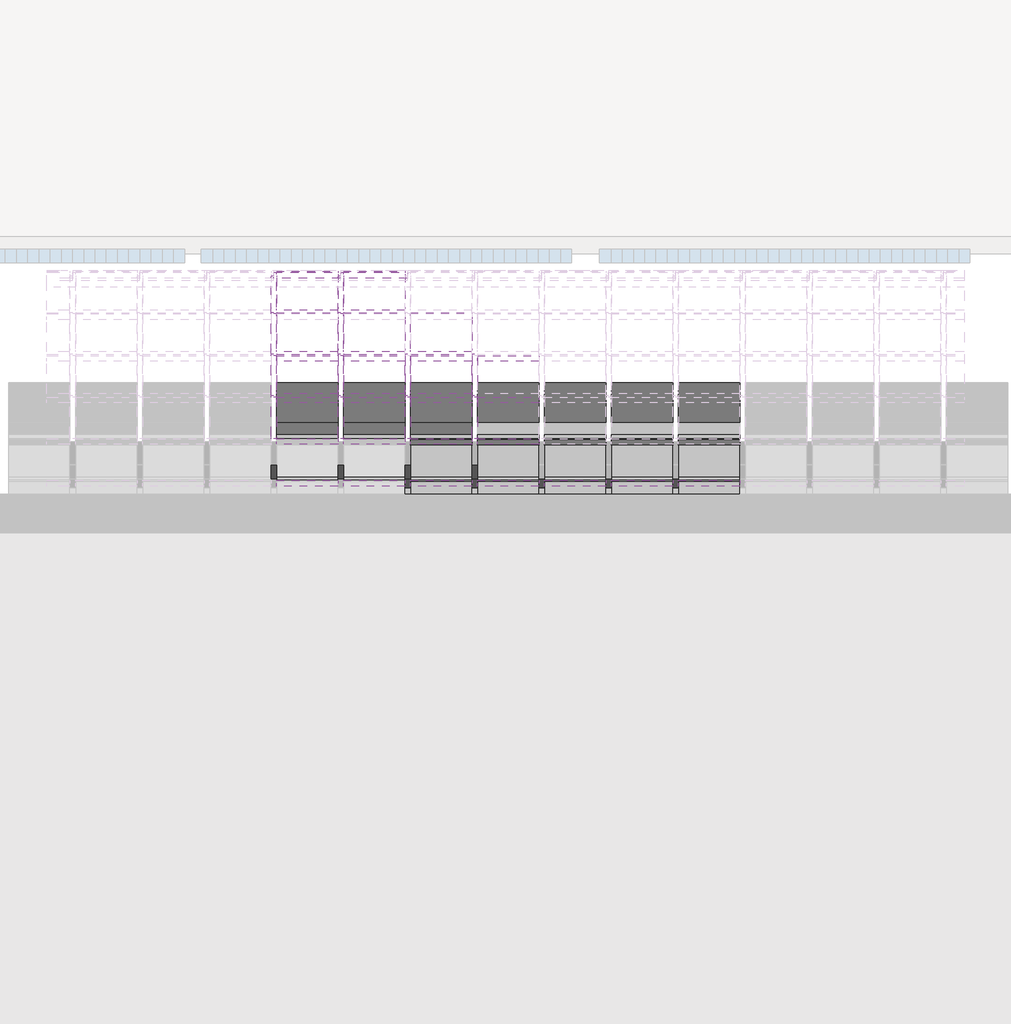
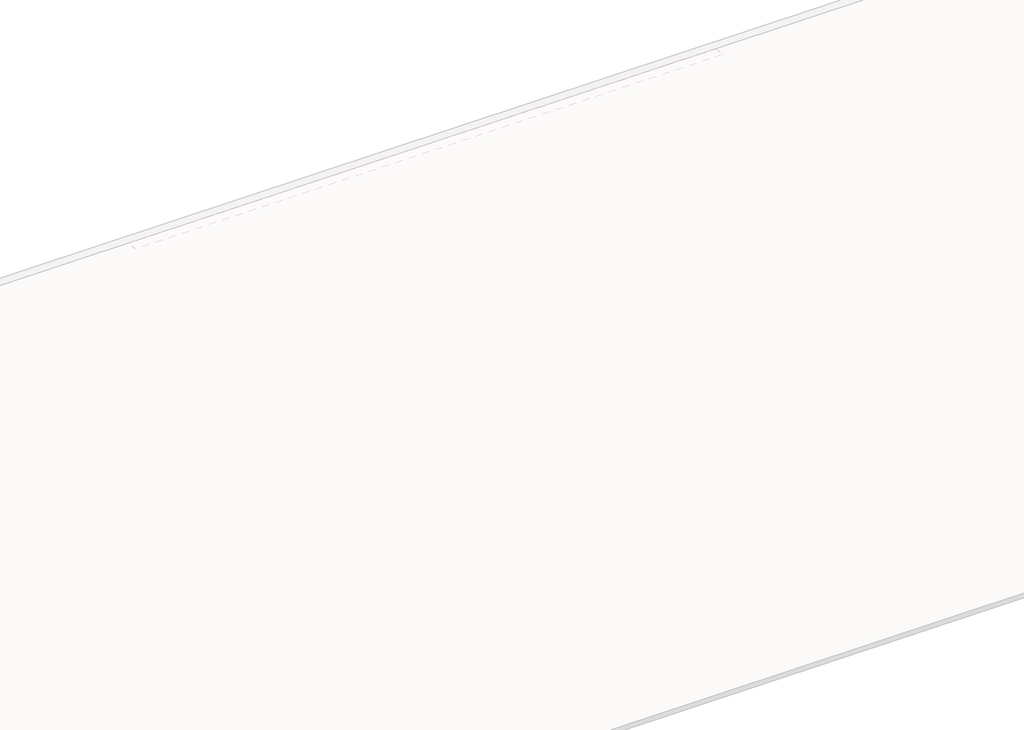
# One storey, part 40 of 57: 84 members, 40 plates.
"""IFC4 building model written with IfcOpenShell, lengths in millimetres."""

from ifc_helpers import new_model, si_unit, origin, place, context, project, spatial, transform, mapped, element, save
from components import rectangular_mullion_4c4137b9, rectangular_mullion_59984080, rectangular_mullion_2d2423ea, rectangular_mullion_caibro_df98490b, rectangular_mullion_caibro_e4384bba, rectangular_mullion_caibro_9bd7bc61, empty_system_panel_vazio_178faf58, empty_system_panel_vazio_2c78850d

model = new_model("IFC4")

# Units and contexts
model_context = context("Model", 3, world=origin())
ifc_project = project(units=[si_unit("LENGTHUNIT", "METRE", prefix="MILLI")], contexts=[model_context])

# Site, building, storey
site = spatial("IfcSite", under=ifc_project)
building = spatial("IfcBuilding", under=site)
storey = spatial("IfcBuildingStorey", under=building, Name="Nível 2", Elevation=4100.0)

# Members
placement = place(None, origin())
rectangular_mullion_shape = rectangular_mullion_4c4137b9(model_context)
element("IfcMember", 1, ObjectType="Rectangular Mullion : Ripa", at=placement, inside=storey, context=model_context, shape_type="MappedRepresentation", body=[
    mapped(rectangular_mullion_shape, transform((28022.0899349, 15566.1284427, 5819.8877114), x_axis=(0.0, 0.9578262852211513, 0.2873478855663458), y_axis=(0.0, 0.2873478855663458, -0.9578262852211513), z_axis=(-1.0, 0.0, 0.0))),
])
element("IfcMember", 2, ObjectType="Rectangular Mullion : Ripa", at=placement, inside=storey, context=model_context, shape_type="MappedRepresentation", body=[
    mapped(rectangular_mullion_shape, transform((28619.1446913, 15566.1284427, 5819.8877114), x_axis=(0.0, 0.9578262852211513, 0.2873478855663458), y_axis=(0.0, 0.2873478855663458, -0.9578262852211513), z_axis=(-1.0, 0.0, 0.0))),
])
rectangular_mullion_2_shape = rectangular_mullion_59984080(model_context)
element("IfcMember", 3, ObjectType="Rectangular Mullion : Ripa", at=placement, inside=storey, context=model_context, shape_type="MappedRepresentation", body=[
    mapped(rectangular_mullion_2_shape, transform((30435.3089606, 12234.5331147, 4820.409113), x_axis=(0.0, 0.9578262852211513, 0.2873478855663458), y_axis=(0.0, 0.2873478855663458, -0.9578262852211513), z_axis=(-1.0, 0.0, 0.0))),
])
element("IfcMember", 4, ObjectType="Rectangular Mullion : Ripa", at=placement, inside=storey, context=model_context, shape_type="MappedRepresentation", body=[
    mapped(rectangular_mullion_2_shape, transform((31032.363717, 12234.5331147, 4820.409113), x_axis=(0.0, 0.9578262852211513, 0.2873478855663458), y_axis=(0.0, 0.2873478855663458, -0.9578262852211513), z_axis=(-1.0, 0.0, 0.0))),
])
element("IfcMember", 5, ObjectType="Rectangular Mullion : Ripa", at=placement, inside=storey, context=model_context, shape_type="MappedRepresentation", body=[
    mapped(rectangular_mullion_2_shape, transform((31629.4184734, 12234.5331147, 4820.409113), x_axis=(0.0, 0.9578262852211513, 0.2873478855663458), y_axis=(0.0, 0.2873478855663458, -0.9578262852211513), z_axis=(-1.0, 0.0, 0.0))),
])
element("IfcMember", 6, ObjectType="Rectangular Mullion : Ripa", at=placement, inside=storey, context=model_context, shape_type="MappedRepresentation", body=[
    mapped(rectangular_mullion_2_shape, transform((30435.3089606, 12604.7103734, 4931.4622906), x_axis=(0.0, 0.9578262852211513, 0.2873478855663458), y_axis=(0.0, 0.2873478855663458, -0.9578262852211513), z_axis=(-1.0, 0.0, 0.0))),
])
element("IfcMember", 7, ObjectType="Rectangular Mullion : Ripa", at=placement, inside=storey, context=model_context, shape_type="MappedRepresentation", body=[
    mapped(rectangular_mullion_2_shape, transform((31032.363717, 12604.7103734, 4931.4622906), x_axis=(0.0, 0.9578262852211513, 0.2873478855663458), y_axis=(0.0, 0.2873478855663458, -0.9578262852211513), z_axis=(-1.0, 0.0, 0.0))),
])
element("IfcMember", 8, ObjectType="Rectangular Mullion : Ripa", at=placement, inside=storey, context=model_context, shape_type="MappedRepresentation", body=[
    mapped(rectangular_mullion_2_shape, transform((31629.4184734, 12604.7103734, 4931.4622906), x_axis=(0.0, 0.9578262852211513, 0.2873478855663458), y_axis=(0.0, 0.2873478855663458, -0.9578262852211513), z_axis=(-1.0, 0.0, 0.0))),
])
element("IfcMember", 9, ObjectType="Rectangular Mullion : Ripa", at=placement, inside=storey, context=model_context, shape_type="MappedRepresentation", body=[
    mapped(rectangular_mullion_2_shape, transform((30435.3089606, 12974.8876321, 5042.5154682), x_axis=(0.0, 0.9578262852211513, 0.2873478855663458), y_axis=(0.0, 0.2873478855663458, -0.9578262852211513), z_axis=(-1.0, 0.0, 0.0))),
])
element("IfcMember", 10, ObjectType="Rectangular Mullion : Ripa", at=placement, inside=storey, context=model_context, shape_type="MappedRepresentation", body=[
    mapped(rectangular_mullion_2_shape, transform((31032.363717, 12974.8876321, 5042.5154682), x_axis=(0.0, 0.9578262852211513, 0.2873478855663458), y_axis=(0.0, 0.2873478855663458, -0.9578262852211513), z_axis=(-1.0, 0.0, 0.0))),
])
element("IfcMember", 11, ObjectType="Rectangular Mullion : Ripa", at=placement, inside=storey, context=model_context, shape_type="MappedRepresentation", body=[
    mapped(rectangular_mullion_2_shape, transform((31629.4184734, 12974.8876321, 5042.5154682), x_axis=(0.0, 0.9578262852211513, 0.2873478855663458), y_axis=(0.0, 0.2873478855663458, -0.9578262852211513), z_axis=(-1.0, 0.0, 0.0))),
])
element("IfcMember", 12, ObjectType="Rectangular Mullion : Ripa", at=placement, inside=storey, context=model_context, shape_type="MappedRepresentation", body=[
    mapped(rectangular_mullion_2_shape, transform((29241.1994477, 13345.0648907, 5153.5686458), x_axis=(0.0, 0.9578262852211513, 0.2873478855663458), y_axis=(0.0, 0.2873478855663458, -0.9578262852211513), z_axis=(-1.0, 0.0, 0.0))),
])
element("IfcMember", 13, ObjectType="Rectangular Mullion : Ripa", at=placement, inside=storey, context=model_context, shape_type="MappedRepresentation", body=[
    mapped(rectangular_mullion_2_shape, transform((29838.2542041, 13345.0648907, 5153.5686458), x_axis=(0.0, 0.9578262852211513, 0.2873478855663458), y_axis=(0.0, 0.2873478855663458, -0.9578262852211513), z_axis=(-1.0, 0.0, 0.0))),
])
element("IfcMember", 14, ObjectType="Rectangular Mullion : Ripa", at=placement, inside=storey, context=model_context, shape_type="MappedRepresentation", body=[
    mapped(rectangular_mullion_2_shape, transform((30435.3089606, 13345.0648907, 5153.5686458), x_axis=(0.0, 0.9578262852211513, 0.2873478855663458), y_axis=(0.0, 0.2873478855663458, -0.9578262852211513), z_axis=(-1.0, 0.0, 0.0))),
])
element("IfcMember", 15, ObjectType="Rectangular Mullion : Ripa", at=placement, inside=storey, context=model_context, shape_type="MappedRepresentation", body=[
    mapped(rectangular_mullion_2_shape, transform((31032.363717, 13345.0648907, 5153.5686458), x_axis=(0.0, 0.9578262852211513, 0.2873478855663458), y_axis=(0.0, 0.2873478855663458, -0.9578262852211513), z_axis=(-1.0, 0.0, 0.0))),
])
element("IfcMember", 16, ObjectType="Rectangular Mullion : Ripa", at=placement, inside=storey, context=model_context, shape_type="MappedRepresentation", body=[
    mapped(rectangular_mullion_2_shape, transform((31629.4184734, 13345.0648907, 5153.5686458), x_axis=(0.0, 0.9578262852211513, 0.2873478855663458), y_axis=(0.0, 0.2873478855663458, -0.9578262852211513), z_axis=(-1.0, 0.0, 0.0))),
])
element("IfcMember", 17, ObjectType="Rectangular Mullion : Ripa", at=placement, inside=storey, context=model_context, shape_type="MappedRepresentation", body=[
    mapped(rectangular_mullion_2_shape, transform((28047.0899349, 13715.2421494, 5264.6218234), x_axis=(0.0, 0.9578262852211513, 0.2873478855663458), y_axis=(0.0, 0.2873478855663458, -0.9578262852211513), z_axis=(-1.0, 0.0, 0.0))),
])
element("IfcMember", 18, ObjectType="Rectangular Mullion : Ripa", at=placement, inside=storey, context=model_context, shape_type="MappedRepresentation", body=[
    mapped(rectangular_mullion_2_shape, transform((28644.1446913, 13715.2421494, 5264.6218234), x_axis=(0.0, 0.9578262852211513, 0.2873478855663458), y_axis=(0.0, 0.2873478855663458, -0.9578262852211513), z_axis=(-1.0, 0.0, 0.0))),
])
element("IfcMember", 19, ObjectType="Rectangular Mullion : Ripa", at=placement, inside=storey, context=model_context, shape_type="MappedRepresentation", body=[
    mapped(rectangular_mullion_2_shape, transform((29241.1994477, 13715.2421494, 5264.6218234), x_axis=(0.0, 0.9578262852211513, 0.2873478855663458), y_axis=(0.0, 0.2873478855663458, -0.9578262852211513), z_axis=(-1.0, 0.0, 0.0))),
])
element("IfcMember", 20, ObjectType="Rectangular Mullion : Ripa", at=placement, inside=storey, context=model_context, shape_type="MappedRepresentation", body=[
    mapped(rectangular_mullion_2_shape, transform((29838.2542041, 13715.2421494, 5264.6218234), x_axis=(0.0, 0.9578262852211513, 0.2873478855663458), y_axis=(0.0, 0.2873478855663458, -0.9578262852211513), z_axis=(-1.0, 0.0, 0.0))),
])
element("IfcMember", 21, ObjectType="Rectangular Mullion : Ripa", at=placement, inside=storey, context=model_context, shape_type="MappedRepresentation", body=[
    mapped(rectangular_mullion_2_shape, transform((30435.3089606, 13715.2421494, 5264.6218234), x_axis=(0.0, 0.9578262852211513, 0.2873478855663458), y_axis=(0.0, 0.2873478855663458, -0.9578262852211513), z_axis=(-1.0, 0.0, 0.0))),
])
element("IfcMember", 22, ObjectType="Rectangular Mullion : Ripa", at=placement, inside=storey, context=model_context, shape_type="MappedRepresentation", body=[
    mapped(rectangular_mullion_2_shape, transform((31032.363717, 13715.2421494, 5264.6218234), x_axis=(0.0, 0.9578262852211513, 0.2873478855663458), y_axis=(0.0, 0.2873478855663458, -0.9578262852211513), z_axis=(-1.0, 0.0, 0.0))),
])
element("IfcMember", 23, ObjectType="Rectangular Mullion : Ripa", at=placement, inside=storey, context=model_context, shape_type="MappedRepresentation", body=[
    mapped(rectangular_mullion_2_shape, transform((31629.4184734, 13715.2421494, 5264.6218234), x_axis=(0.0, 0.9578262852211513, 0.2873478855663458), y_axis=(0.0, 0.2873478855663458, -0.9578262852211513), z_axis=(-1.0, 0.0, 0.0))),
])
element("IfcMember", 24, ObjectType="Rectangular Mullion : Ripa", at=placement, inside=storey, context=model_context, shape_type="MappedRepresentation", body=[
    mapped(rectangular_mullion_2_shape, transform((28047.0899349, 14085.4194081, 5375.675001), x_axis=(0.0, 0.9578262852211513, 0.2873478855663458), y_axis=(0.0, 0.2873478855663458, -0.9578262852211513), z_axis=(-1.0, 0.0, 0.0))),
])
element("IfcMember", 25, ObjectType="Rectangular Mullion : Ripa", at=placement, inside=storey, context=model_context, shape_type="MappedRepresentation", body=[
    mapped(rectangular_mullion_2_shape, transform((28644.1446913, 14085.4194081, 5375.675001), x_axis=(0.0, 0.9578262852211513, 0.2873478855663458), y_axis=(0.0, 0.2873478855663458, -0.9578262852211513), z_axis=(-1.0, 0.0, 0.0))),
])
element("IfcMember", 26, ObjectType="Rectangular Mullion : Ripa", at=placement, inside=storey, context=model_context, shape_type="MappedRepresentation", body=[
    mapped(rectangular_mullion_2_shape, transform((29241.1994477, 14085.4194081, 5375.675001), x_axis=(0.0, 0.9578262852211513, 0.2873478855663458), y_axis=(0.0, 0.2873478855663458, -0.9578262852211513), z_axis=(-1.0, 0.0, 0.0))),
])
element("IfcMember", 27, ObjectType="Rectangular Mullion : Ripa", at=placement, inside=storey, context=model_context, shape_type="MappedRepresentation", body=[
    mapped(rectangular_mullion_2_shape, transform((29838.2542041, 14085.4194081, 5375.675001), x_axis=(0.0, 0.9578262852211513, 0.2873478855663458), y_axis=(0.0, 0.2873478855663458, -0.9578262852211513), z_axis=(-1.0, 0.0, 0.0))),
])
element("IfcMember", 28, ObjectType="Rectangular Mullion : Ripa", at=placement, inside=storey, context=model_context, shape_type="MappedRepresentation", body=[
    mapped(rectangular_mullion_2_shape, transform((28047.0899349, 14455.5966667, 5486.7281786), x_axis=(0.0, 0.9578262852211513, 0.2873478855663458), y_axis=(0.0, 0.2873478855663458, -0.9578262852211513), z_axis=(-1.0, 0.0, 0.0))),
])
element("IfcMember", 29, ObjectType="Rectangular Mullion : Ripa", at=placement, inside=storey, context=model_context, shape_type="MappedRepresentation", body=[
    mapped(rectangular_mullion_2_shape, transform((28644.1446913, 14455.5966667, 5486.7281786), x_axis=(0.0, 0.9578262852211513, 0.2873478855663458), y_axis=(0.0, 0.2873478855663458, -0.9578262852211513), z_axis=(-1.0, 0.0, 0.0))),
])
element("IfcMember", 30, ObjectType="Rectangular Mullion : Ripa", at=placement, inside=storey, context=model_context, shape_type="MappedRepresentation", body=[
    mapped(rectangular_mullion_2_shape, transform((29241.1994477, 14455.5966667, 5486.7281786), x_axis=(0.0, 0.9578262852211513, 0.2873478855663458), y_axis=(0.0, 0.2873478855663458, -0.9578262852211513), z_axis=(-1.0, 0.0, 0.0))),
])
element("IfcMember", 31, ObjectType="Rectangular Mullion : Ripa", at=placement, inside=storey, context=model_context, shape_type="MappedRepresentation", body=[
    mapped(rectangular_mullion_2_shape, transform((29838.2542041, 14455.5966667, 5486.7281786), x_axis=(0.0, 0.9578262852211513, 0.2873478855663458), y_axis=(0.0, 0.2873478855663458, -0.9578262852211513), z_axis=(-1.0, 0.0, 0.0))),
])
element("IfcMember", 32, ObjectType="Rectangular Mullion : Ripa", at=placement, inside=storey, context=model_context, shape_type="MappedRepresentation", body=[
    mapped(rectangular_mullion_2_shape, transform((28047.0899349, 14825.7739254, 5597.7813562), x_axis=(0.0, 0.9578262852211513, 0.2873478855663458), y_axis=(0.0, 0.2873478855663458, -0.9578262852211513), z_axis=(-1.0, 0.0, 0.0))),
])
element("IfcMember", 33, ObjectType="Rectangular Mullion : Ripa", at=placement, inside=storey, context=model_context, shape_type="MappedRepresentation", body=[
    mapped(rectangular_mullion_2_shape, transform((28644.1446913, 14825.7739254, 5597.7813562), x_axis=(0.0, 0.9578262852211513, 0.2873478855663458), y_axis=(0.0, 0.2873478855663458, -0.9578262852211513), z_axis=(-1.0, 0.0, 0.0))),
])
element("IfcMember", 34, ObjectType="Rectangular Mullion : Ripa", at=placement, inside=storey, context=model_context, shape_type="MappedRepresentation", body=[
    mapped(rectangular_mullion_2_shape, transform((29241.1994477, 14825.7739254, 5597.7813562), x_axis=(0.0, 0.9578262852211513, 0.2873478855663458), y_axis=(0.0, 0.2873478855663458, -0.9578262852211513), z_axis=(-1.0, 0.0, 0.0))),
])
element("IfcMember", 35, ObjectType="Rectangular Mullion : Ripa", at=placement, inside=storey, context=model_context, shape_type="MappedRepresentation", body=[
    mapped(rectangular_mullion_2_shape, transform((29838.2542041, 14825.7739254, 5597.7813562), x_axis=(0.0, 0.9578262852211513, 0.2873478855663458), y_axis=(0.0, 0.2873478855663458, -0.9578262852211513), z_axis=(-1.0, 0.0, 0.0))),
])
rectangular_mullion_3_shape = rectangular_mullion_2d2423ea(model_context)
element("IfcMember", 36, ObjectType="Rectangular Mullion : Terça", at=placement, inside=storey, context=model_context, shape_type="MappedRepresentation", body=[
    mapped(rectangular_mullion_3_shape, transform((28047.0899349, 13411.2689826, 5110.7880343), x_axis=(0.0, 0.9578262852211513, 0.2873478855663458), y_axis=(0.0, 0.2873478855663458, -0.9578262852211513), z_axis=(-1.0, 0.0, 0.0))),
])
element("IfcMember", 37, ObjectType="Rectangular Mullion : Terça", at=placement, inside=storey, context=model_context, shape_type="MappedRepresentation", body=[
    mapped(rectangular_mullion_3_shape, transform((28644.1446913, 13411.2689826, 5110.7880343), x_axis=(0.0, 0.9578262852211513, 0.2873478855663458), y_axis=(0.0, 0.2873478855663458, -0.9578262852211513), z_axis=(-1.0, 0.0, 0.0))),
])
element("IfcMember", 38, ObjectType="Rectangular Mullion : Terça", at=placement, inside=storey, context=model_context, shape_type="MappedRepresentation", body=[
    mapped(rectangular_mullion_3_shape, transform((29241.1994477, 13411.2689826, 5110.7880343), x_axis=(0.0, 0.9578262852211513, 0.2873478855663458), y_axis=(0.0, 0.2873478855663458, -0.9578262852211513), z_axis=(-1.0, 0.0, 0.0))),
])
element("IfcMember", 39, ObjectType="Rectangular Mullion : Terça", at=placement, inside=storey, context=model_context, shape_type="MappedRepresentation", body=[
    mapped(rectangular_mullion_3_shape, transform((29838.2542041, 13411.2689826, 5110.7880343), x_axis=(0.0, 0.9578262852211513, 0.2873478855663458), y_axis=(0.0, 0.2873478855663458, -0.9578262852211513), z_axis=(-1.0, 0.0, 0.0))),
])
element("IfcMember", 40, ObjectType="Rectangular Mullion : Terça", at=placement, inside=storey, context=model_context, shape_type="MappedRepresentation", body=[
    mapped(rectangular_mullion_3_shape, transform((30435.3089606, 13411.2689826, 5110.7880343), x_axis=(0.0, 0.9578262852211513, 0.2873478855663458), y_axis=(0.0, 0.2873478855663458, -0.9578262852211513), z_axis=(-1.0, 0.0, 0.0))),
])
element("IfcMember", 41, ObjectType="Rectangular Mullion : Terça", at=placement, inside=storey, context=model_context, shape_type="MappedRepresentation", body=[
    mapped(rectangular_mullion_3_shape, transform((31032.363717, 13411.2689826, 5110.7880343), x_axis=(0.0, 0.9578262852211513, 0.2873478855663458), y_axis=(0.0, 0.2873478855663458, -0.9578262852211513), z_axis=(-1.0, 0.0, 0.0))),
])
element("IfcMember", 42, ObjectType="Rectangular Mullion : Terça", at=placement, inside=storey, context=model_context, shape_type="MappedRepresentation", body=[
    mapped(rectangular_mullion_3_shape, transform((31629.4184734, 13411.2689826, 5110.7880343), x_axis=(0.0, 0.9578262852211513, 0.2873478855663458), y_axis=(0.0, 0.2873478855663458, -0.9578262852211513), z_axis=(-1.0, 0.0, 0.0))),
])
rectangular_mullion_caibro_shape = rectangular_mullion_caibro_df98490b(model_context)
element("IfcMember", 43, ObjectType="Rectangular Mullion : Caibro", at=placement, inside=storey, context=model_context, shape_type="MappedRepresentation", body=[
    mapped(rectangular_mullion_caibro_shape, transform((28022.0899349, 15518.2371285, 5805.5203171), x_axis=(1.0, 0.0, 0.0), y_axis=(0.0, 0.28734788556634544, -0.9578262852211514), z_axis=(0.0, 0.9578262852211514, 0.28734788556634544))),
])
element("IfcMember", 44, ObjectType="Rectangular Mullion : Caibro", at=placement, inside=storey, context=model_context, shape_type="MappedRepresentation", body=[
    mapped(rectangular_mullion_caibro_shape, transform((28619.1446913, 15518.2371285, 5805.5203171), x_axis=(1.0, 0.0, 0.0), y_axis=(0.0, 0.28734788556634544, -0.9578262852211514), z_axis=(0.0, 0.9578262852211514, 0.28734788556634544))),
])
rectangular_mullion_caibro_2_shape = rectangular_mullion_caibro_e4384bba(model_context)
element("IfcMember", 45, ObjectType="Rectangular Mullion : Caibro", at=placement, inside=storey, context=model_context, shape_type="MappedRepresentation", body=[
    mapped(rectangular_mullion_caibro_2_shape, transform((28022.0899349, 14085.4194081, 5375.675001), x_axis=(1.0, 0.0, 0.0), y_axis=(0.0, 0.28734788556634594, -0.9578262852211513), z_axis=(0.0, 0.9578262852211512, 0.2873478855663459))),
])
element("IfcMember", 46, ObjectType="Rectangular Mullion : Caibro", at=placement, inside=storey, context=model_context, shape_type="MappedRepresentation", body=[
    mapped(rectangular_mullion_caibro_2_shape, transform((28022.0899349, 14455.5966667, 5486.7281786), x_axis=(1.0, 0.0, 0.0), y_axis=(0.0, 0.2873478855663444, -0.9578262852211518), z_axis=(0.0, 0.9578262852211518, 0.2873478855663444))),
])
element("IfcMember", 47, ObjectType="Rectangular Mullion : Caibro", at=placement, inside=storey, context=model_context, shape_type="MappedRepresentation", body=[
    mapped(rectangular_mullion_caibro_2_shape, transform((28022.0899349, 14825.7739254, 5597.7813562), x_axis=(1.0, 0.0, 0.0), y_axis=(0.0, 0.287347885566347, -0.9578262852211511), z_axis=(0.0, 0.9578262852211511, 0.287347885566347))),
])
element("IfcMember", 48, ObjectType="Rectangular Mullion : Caibro", at=placement, inside=storey, context=model_context, shape_type="MappedRepresentation", body=[
    mapped(rectangular_mullion_caibro_2_shape, transform((28022.0899349, 15195.9511841, 5708.8345338), x_axis=(1.0, 0.0, 0.0), y_axis=(0.0, 0.28734788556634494, -0.9578262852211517), z_axis=(0.0, 0.9578262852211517, 0.28734788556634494))),
])
element("IfcMember", 49, ObjectType="Rectangular Mullion : Caibro", at=placement, inside=storey, context=model_context, shape_type="MappedRepresentation", body=[
    mapped(rectangular_mullion_caibro_2_shape, transform((28619.1446913, 14085.4194081, 5375.675001), x_axis=(1.0, 0.0, 0.0), y_axis=(0.0, 0.28734788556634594, -0.9578262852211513), z_axis=(0.0, 0.9578262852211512, 0.2873478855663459))),
])
element("IfcMember", 50, ObjectType="Rectangular Mullion : Caibro", at=placement, inside=storey, context=model_context, shape_type="MappedRepresentation", body=[
    mapped(rectangular_mullion_caibro_2_shape, transform((28619.1446913, 14455.5966667, 5486.7281786), x_axis=(1.0, 0.0, 0.0), y_axis=(0.0, 0.2873478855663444, -0.9578262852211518), z_axis=(0.0, 0.9578262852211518, 0.2873478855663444))),
])
element("IfcMember", 51, ObjectType="Rectangular Mullion : Caibro", at=placement, inside=storey, context=model_context, shape_type="MappedRepresentation", body=[
    mapped(rectangular_mullion_caibro_2_shape, transform((28619.1446913, 14825.7739254, 5597.7813562), x_axis=(1.0, 0.0, 0.0), y_axis=(0.0, 0.287347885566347, -0.9578262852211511), z_axis=(0.0, 0.9578262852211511, 0.287347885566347))),
])
element("IfcMember", 52, ObjectType="Rectangular Mullion : Caibro", at=placement, inside=storey, context=model_context, shape_type="MappedRepresentation", body=[
    mapped(rectangular_mullion_caibro_2_shape, transform((28619.1446913, 15195.9511841, 5708.8345338), x_axis=(1.0, 0.0, 0.0), y_axis=(0.0, 0.28734788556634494, -0.9578262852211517), z_axis=(0.0, 0.9578262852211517, 0.28734788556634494))),
])
element("IfcMember", 53, ObjectType="Rectangular Mullion : Caibro", at=placement, inside=storey, context=model_context, shape_type="MappedRepresentation", body=[
    mapped(rectangular_mullion_caibro_2_shape, transform((29216.1994477, 13345.0648907, 5153.5686458), x_axis=(1.0, 0.0, 0.0), y_axis=(0.0, 0.28734788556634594, -0.9578262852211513), z_axis=(0.0, 0.9578262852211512, 0.2873478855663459))),
])
element("IfcMember", 54, ObjectType="Rectangular Mullion : Caibro", at=placement, inside=storey, context=model_context, shape_type="MappedRepresentation", body=[
    mapped(rectangular_mullion_caibro_2_shape, transform((29216.1994477, 13715.2421494, 5264.6218234), x_axis=(1.0, 0.0, 0.0), y_axis=(0.0, 0.28734788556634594, -0.9578262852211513), z_axis=(0.0, 0.9578262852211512, 0.2873478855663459))),
])
element("IfcMember", 55, ObjectType="Rectangular Mullion : Caibro", at=placement, inside=storey, context=model_context, shape_type="MappedRepresentation", body=[
    mapped(rectangular_mullion_caibro_2_shape, transform((29216.1994477, 14085.4194081, 5375.675001), x_axis=(1.0, 0.0, 0.0), y_axis=(0.0, 0.28734788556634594, -0.9578262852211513), z_axis=(0.0, 0.9578262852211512, 0.2873478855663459))),
])
element("IfcMember", 56, ObjectType="Rectangular Mullion : Caibro", at=placement, inside=storey, context=model_context, shape_type="MappedRepresentation", body=[
    mapped(rectangular_mullion_caibro_2_shape, transform((29216.1994477, 14455.5966667, 5486.7281786), x_axis=(1.0, 0.0, 0.0), y_axis=(0.0, 0.2873478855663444, -0.9578262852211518), z_axis=(0.0, 0.9578262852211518, 0.2873478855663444))),
])
element("IfcMember", 57, ObjectType="Rectangular Mullion : Caibro", at=placement, inside=storey, context=model_context, shape_type="MappedRepresentation", body=[
    mapped(rectangular_mullion_caibro_2_shape, transform((29216.1994477, 14825.7739254, 5597.7813562), x_axis=(1.0, 0.0, 0.0), y_axis=(0.0, 0.287347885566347, -0.9578262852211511), z_axis=(0.0, 0.9578262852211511, 0.287347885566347))),
])
element("IfcMember", 58, ObjectType="Rectangular Mullion : Caibro", at=placement, inside=storey, context=model_context, shape_type="MappedRepresentation", body=[
    mapped(rectangular_mullion_caibro_2_shape, transform((29813.2542041, 13345.0648907, 5153.5686458), x_axis=(1.0, 0.0, 0.0), y_axis=(0.0, 0.28734788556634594, -0.9578262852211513), z_axis=(0.0, 0.9578262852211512, 0.2873478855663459))),
])
element("IfcMember", 59, ObjectType="Rectangular Mullion : Caibro", at=placement, inside=storey, context=model_context, shape_type="MappedRepresentation", body=[
    mapped(rectangular_mullion_caibro_2_shape, transform((29813.2542041, 13715.2421494, 5264.6218234), x_axis=(1.0, 0.0, 0.0), y_axis=(0.0, 0.28734788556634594, -0.9578262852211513), z_axis=(0.0, 0.9578262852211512, 0.2873478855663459))),
])
element("IfcMember", 60, ObjectType="Rectangular Mullion : Caibro", at=placement, inside=storey, context=model_context, shape_type="MappedRepresentation", body=[
    mapped(rectangular_mullion_caibro_2_shape, transform((29813.2542041, 14085.4194081, 5375.675001), x_axis=(1.0, 0.0, 0.0), y_axis=(0.0, 0.28734788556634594, -0.9578262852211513), z_axis=(0.0, 0.9578262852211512, 0.2873478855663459))),
])
element("IfcMember", 61, ObjectType="Rectangular Mullion : Caibro", at=placement, inside=storey, context=model_context, shape_type="MappedRepresentation", body=[
    mapped(rectangular_mullion_caibro_2_shape, transform((29813.2542041, 14455.5966667, 5486.7281786), x_axis=(1.0, 0.0, 0.0), y_axis=(0.0, 0.28734788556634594, -0.9578262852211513), z_axis=(0.0, 0.9578262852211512, 0.2873478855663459))),
])
element("IfcMember", 62, ObjectType="Rectangular Mullion : Caibro", at=placement, inside=storey, context=model_context, shape_type="MappedRepresentation", body=[
    mapped(rectangular_mullion_caibro_2_shape, transform((29813.2542041, 14825.7739254, 5597.7813562), x_axis=(1.0, 0.0, 0.0), y_axis=(0.0, 0.28734788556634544, -0.9578262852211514), z_axis=(0.0, 0.9578262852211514, 0.28734788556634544))),
])
element("IfcMember", 63, ObjectType="Rectangular Mullion : Caibro", at=placement, inside=storey, context=model_context, shape_type="MappedRepresentation", body=[
    mapped(rectangular_mullion_caibro_2_shape, transform((30410.3089606, 12234.5331147, 4820.409113), x_axis=(1.0, 0.0, 0.0), y_axis=(0.0, 0.2873478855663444, -0.9578262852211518), z_axis=(0.0, 0.9578262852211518, 0.2873478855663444))),
])
element("IfcMember", 64, ObjectType="Rectangular Mullion : Caibro", at=placement, inside=storey, context=model_context, shape_type="MappedRepresentation", body=[
    mapped(rectangular_mullion_caibro_2_shape, transform((30410.3089606, 12604.7103734, 4931.4622906), x_axis=(1.0, 0.0, 0.0), y_axis=(0.0, 0.28734788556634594, -0.9578262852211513), z_axis=(0.0, 0.9578262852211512, 0.2873478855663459))),
])
element("IfcMember", 65, ObjectType="Rectangular Mullion : Caibro", at=placement, inside=storey, context=model_context, shape_type="MappedRepresentation", body=[
    mapped(rectangular_mullion_caibro_2_shape, transform((30410.3089606, 12974.8876321, 5042.5154682), x_axis=(1.0, 0.0, 0.0), y_axis=(0.0, 0.28734788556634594, -0.9578262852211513), z_axis=(0.0, 0.9578262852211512, 0.2873478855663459))),
])
element("IfcMember", 66, ObjectType="Rectangular Mullion : Caibro", at=placement, inside=storey, context=model_context, shape_type="MappedRepresentation", body=[
    mapped(rectangular_mullion_caibro_2_shape, transform((30410.3089606, 13345.0648907, 5153.5686458), x_axis=(1.0, 0.0, 0.0), y_axis=(0.0, 0.28734788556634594, -0.9578262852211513), z_axis=(0.0, 0.9578262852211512, 0.2873478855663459))),
])
element("IfcMember", 67, ObjectType="Rectangular Mullion : Caibro", at=placement, inside=storey, context=model_context, shape_type="MappedRepresentation", body=[
    mapped(rectangular_mullion_caibro_2_shape, transform((30410.3089606, 13715.2421494, 5264.6218234), x_axis=(1.0, 0.0, 0.0), y_axis=(0.0, 0.28734788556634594, -0.9578262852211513), z_axis=(0.0, 0.9578262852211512, 0.2873478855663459))),
])
element("IfcMember", 68, ObjectType="Rectangular Mullion : Caibro", at=placement, inside=storey, context=model_context, shape_type="MappedRepresentation", body=[
    mapped(rectangular_mullion_caibro_2_shape, transform((31007.363717, 12234.5331147, 4820.409113), x_axis=(1.0, 0.0, 0.0), y_axis=(0.0, 0.2873478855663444, -0.9578262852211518), z_axis=(0.0, 0.9578262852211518, 0.2873478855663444))),
])
element("IfcMember", 69, ObjectType="Rectangular Mullion : Caibro", at=placement, inside=storey, context=model_context, shape_type="MappedRepresentation", body=[
    mapped(rectangular_mullion_caibro_2_shape, transform((31007.363717, 12604.7103734, 4931.4622906), x_axis=(1.0, 0.0, 0.0), y_axis=(0.0, 0.28734788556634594, -0.9578262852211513), z_axis=(0.0, 0.9578262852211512, 0.2873478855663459))),
])
element("IfcMember", 70, ObjectType="Rectangular Mullion : Caibro", at=placement, inside=storey, context=model_context, shape_type="MappedRepresentation", body=[
    mapped(rectangular_mullion_caibro_2_shape, transform((31007.363717, 12974.8876321, 5042.5154682), x_axis=(1.0, 0.0, 0.0), y_axis=(0.0, 0.28734788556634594, -0.9578262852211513), z_axis=(0.0, 0.9578262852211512, 0.2873478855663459))),
])
element("IfcMember", 71, ObjectType="Rectangular Mullion : Caibro", at=placement, inside=storey, context=model_context, shape_type="MappedRepresentation", body=[
    mapped(rectangular_mullion_caibro_2_shape, transform((31007.363717, 13345.0648907, 5153.5686458), x_axis=(1.0, 0.0, 0.0), y_axis=(0.0, 0.28734788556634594, -0.9578262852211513), z_axis=(0.0, 0.9578262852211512, 0.2873478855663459))),
])
element("IfcMember", 72, ObjectType="Rectangular Mullion : Caibro", at=placement, inside=storey, context=model_context, shape_type="MappedRepresentation", body=[
    mapped(rectangular_mullion_caibro_2_shape, transform((31007.363717, 13715.2421494, 5264.6218234), x_axis=(1.0, 0.0, 0.0), y_axis=(0.0, 0.28734788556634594, -0.9578262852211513), z_axis=(0.0, 0.9578262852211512, 0.2873478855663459))),
])
element("IfcMember", 73, ObjectType="Rectangular Mullion : Caibro", at=placement, inside=storey, context=model_context, shape_type="MappedRepresentation", body=[
    mapped(rectangular_mullion_caibro_2_shape, transform((31604.4184734, 12234.5331147, 4820.409113), x_axis=(1.0, 0.0, 0.0), y_axis=(0.0, 0.2873478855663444, -0.9578262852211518), z_axis=(0.0, 0.9578262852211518, 0.2873478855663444))),
])
element("IfcMember", 74, ObjectType="Rectangular Mullion : Caibro", at=placement, inside=storey, context=model_context, shape_type="MappedRepresentation", body=[
    mapped(rectangular_mullion_caibro_2_shape, transform((31604.4184734, 12604.7103734, 4931.4622906), x_axis=(1.0, 0.0, 0.0), y_axis=(0.0, 0.28734788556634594, -0.9578262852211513), z_axis=(0.0, 0.9578262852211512, 0.2873478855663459))),
])
element("IfcMember", 75, ObjectType="Rectangular Mullion : Caibro", at=placement, inside=storey, context=model_context, shape_type="MappedRepresentation", body=[
    mapped(rectangular_mullion_caibro_2_shape, transform((31604.4184734, 12974.8876321, 5042.5154682), x_axis=(1.0, 0.0, 0.0), y_axis=(0.0, 0.28734788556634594, -0.9578262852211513), z_axis=(0.0, 0.9578262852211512, 0.2873478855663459))),
])
element("IfcMember", 76, ObjectType="Rectangular Mullion : Caibro", at=placement, inside=storey, context=model_context, shape_type="MappedRepresentation", body=[
    mapped(rectangular_mullion_caibro_2_shape, transform((31604.4184734, 13345.0648907, 5153.5686458), x_axis=(1.0, 0.0, 0.0), y_axis=(0.0, 0.28734788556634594, -0.9578262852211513), z_axis=(0.0, 0.9578262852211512, 0.2873478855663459))),
])
element("IfcMember", 77, ObjectType="Rectangular Mullion : Caibro", at=placement, inside=storey, context=model_context, shape_type="MappedRepresentation", body=[
    mapped(rectangular_mullion_caibro_2_shape, transform((31604.4184734, 13715.2421494, 5264.6218234), x_axis=(1.0, 0.0, 0.0), y_axis=(0.0, 0.28734788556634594, -0.9578262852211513), z_axis=(0.0, 0.9578262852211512, 0.2873478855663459))),
])
rectangular_mullion_caibro_3_shape = rectangular_mullion_caibro_9bd7bc61(model_context)
element("IfcMember", 78, ObjectType="Rectangular Mullion : Caibro", at=placement, inside=storey, context=model_context, shape_type="MappedRepresentation", body=[
    mapped(rectangular_mullion_caibro_3_shape, transform((28022.0899349, 13411.2689826, 5110.7880343), x_axis=(1.0, 0.0, 0.0), y_axis=(0.0, 0.2873478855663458, -0.9578262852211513), z_axis=(0.0, 0.9578262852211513, 0.2873478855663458))),
])
element("IfcMember", 79, ObjectType="Rectangular Mullion : Caibro", at=placement, inside=storey, context=model_context, shape_type="MappedRepresentation", body=[
    mapped(rectangular_mullion_caibro_3_shape, transform((28619.1446913, 13411.2689826, 5110.7880343), x_axis=(1.0, 0.0, 0.0), y_axis=(0.0, 0.2873478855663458, -0.9578262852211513), z_axis=(0.0, 0.9578262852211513, 0.2873478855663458))),
])
element("IfcMember", 80, ObjectType="Rectangular Mullion : Caibro", at=placement, inside=storey, context=model_context, shape_type="MappedRepresentation", body=[
    mapped(rectangular_mullion_caibro_3_shape, transform((29216.1994477, 13411.2689826, 5110.7880343), x_axis=(1.0, 0.0, 0.0), y_axis=(0.0, 0.2873478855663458, -0.9578262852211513), z_axis=(0.0, 0.9578262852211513, 0.2873478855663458))),
])
element("IfcMember", 81, ObjectType="Rectangular Mullion : Caibro", at=placement, inside=storey, context=model_context, shape_type="MappedRepresentation", body=[
    mapped(rectangular_mullion_caibro_3_shape, transform((29813.2542041, 13411.2689826, 5110.7880343), x_axis=(1.0, 0.0, 0.0), y_axis=(0.0, 0.2873478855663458, -0.9578262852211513), z_axis=(0.0, 0.9578262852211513, 0.2873478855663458))),
])
element("IfcMember", 82, ObjectType="Rectangular Mullion : Caibro", at=placement, inside=storey, context=model_context, shape_type="MappedRepresentation", body=[
    mapped(rectangular_mullion_caibro_3_shape, transform((30410.3089606, 13411.2689826, 5110.7880343), x_axis=(1.0, 0.0, 0.0), y_axis=(0.0, 0.2873478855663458, -0.9578262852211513), z_axis=(0.0, 0.9578262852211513, 0.2873478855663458))),
])
element("IfcMember", 83, ObjectType="Rectangular Mullion : Caibro", at=placement, inside=storey, context=model_context, shape_type="MappedRepresentation", body=[
    mapped(rectangular_mullion_caibro_3_shape, transform((31007.363717, 13411.2689826, 5110.7880343), x_axis=(1.0, 0.0, 0.0), y_axis=(0.0, 0.2873478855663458, -0.9578262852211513), z_axis=(0.0, 0.9578262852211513, 0.2873478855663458))),
])
element("IfcMember", 84, ObjectType="Rectangular Mullion : Caibro", at=placement, inside=storey, context=model_context, shape_type="MappedRepresentation", body=[
    mapped(rectangular_mullion_caibro_3_shape, transform((31604.4184734, 13411.2689826, 5110.7880343), x_axis=(1.0, 0.0, 0.0), y_axis=(0.0, 0.2873478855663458, -0.9578262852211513), z_axis=(0.0, 0.9578262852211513, 0.2873478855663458))),
])

# Plates
empty_system_panel_vazio_shape = empty_system_panel_vazio_178faf58(model_context)
element("IfcPlate", 85, ObjectType="Empty System Panel : Vazio", at=placement, inside=storey, context=model_context, shape_type="MappedRepresentation", body=[
    mapped(empty_system_panel_vazio_shape, transform((30111.7815823, 12234.5331147, 4820.409113), x_axis=(1.0, 0.0, 0.0), y_axis=(0.0, 0.2873478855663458, -0.9578262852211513), z_axis=(0.0, 0.9578262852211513, 0.2873478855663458))),
])
element("IfcPlate", 86, ObjectType="Empty System Panel : Vazio", at=placement, inside=storey, context=model_context, shape_type="MappedRepresentation", body=[
    mapped(empty_system_panel_vazio_shape, transform((30708.8363388, 12234.5331147, 4820.409113), x_axis=(1.0, 0.0, 0.0), y_axis=(0.0, 0.2873478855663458, -0.9578262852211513), z_axis=(0.0, 0.9578262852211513, 0.2873478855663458))),
])
element("IfcPlate", 87, ObjectType="Empty System Panel : Vazio", at=placement, inside=storey, context=model_context, shape_type="MappedRepresentation", body=[
    mapped(empty_system_panel_vazio_shape, transform((31305.8910952, 12234.5331147, 4820.409113), x_axis=(1.0, 0.0, 0.0), y_axis=(0.0, 0.2873478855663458, -0.9578262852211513), z_axis=(0.0, 0.9578262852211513, 0.2873478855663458))),
])
element("IfcPlate", 88, ObjectType="Empty System Panel : Vazio", at=placement, inside=storey, context=model_context, shape_type="MappedRepresentation", body=[
    mapped(empty_system_panel_vazio_shape, transform((31902.9458516, 12234.5331147, 4820.409113), x_axis=(1.0, 0.0, 0.0), y_axis=(0.0, 0.2873478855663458, -0.9578262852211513), z_axis=(0.0, 0.9578262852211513, 0.2873478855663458))),
])
element("IfcPlate", 89, ObjectType="Empty System Panel : Vazio", at=placement, inside=storey, context=model_context, shape_type="MappedRepresentation", body=[
    mapped(empty_system_panel_vazio_shape, transform((30111.7815823, 12604.7103734, 4931.4622906), x_axis=(1.0, 0.0, 0.0), y_axis=(0.0, 0.2873478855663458, -0.9578262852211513), z_axis=(0.0, 0.9578262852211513, 0.2873478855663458))),
])
element("IfcPlate", 90, ObjectType="Empty System Panel : Vazio", at=placement, inside=storey, context=model_context, shape_type="MappedRepresentation", body=[
    mapped(empty_system_panel_vazio_shape, transform((30708.8363388, 12604.7103734, 4931.4622906), x_axis=(1.0, 0.0, 0.0), y_axis=(0.0, 0.2873478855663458, -0.9578262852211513), z_axis=(0.0, 0.9578262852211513, 0.2873478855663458))),
])
element("IfcPlate", 91, ObjectType="Empty System Panel : Vazio", at=placement, inside=storey, context=model_context, shape_type="MappedRepresentation", body=[
    mapped(empty_system_panel_vazio_shape, transform((31305.8910952, 12604.7103734, 4931.4622906), x_axis=(1.0, 0.0, 0.0), y_axis=(0.0, 0.2873478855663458, -0.9578262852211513), z_axis=(0.0, 0.9578262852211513, 0.2873478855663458))),
])
element("IfcPlate", 92, ObjectType="Empty System Panel : Vazio", at=placement, inside=storey, context=model_context, shape_type="MappedRepresentation", body=[
    mapped(empty_system_panel_vazio_shape, transform((31902.9458516, 12604.7103734, 4931.4622906), x_axis=(1.0, 0.0, 0.0), y_axis=(0.0, 0.2873478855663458, -0.9578262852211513), z_axis=(0.0, 0.9578262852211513, 0.2873478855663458))),
])
element("IfcPlate", 93, ObjectType="Empty System Panel : Vazio", at=placement, inside=storey, context=model_context, shape_type="MappedRepresentation", body=[
    mapped(empty_system_panel_vazio_shape, transform((30111.7815823, 12974.8876321, 5042.5154682), x_axis=(1.0, 0.0, 0.0), y_axis=(0.0, 0.2873478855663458, -0.9578262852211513), z_axis=(0.0, 0.9578262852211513, 0.2873478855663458))),
])
element("IfcPlate", 94, ObjectType="Empty System Panel : Vazio", at=placement, inside=storey, context=model_context, shape_type="MappedRepresentation", body=[
    mapped(empty_system_panel_vazio_shape, transform((30708.8363388, 12974.8876321, 5042.5154682), x_axis=(1.0, 0.0, 0.0), y_axis=(0.0, 0.2873478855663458, -0.9578262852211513), z_axis=(0.0, 0.9578262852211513, 0.2873478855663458))),
])
element("IfcPlate", 95, ObjectType="Empty System Panel : Vazio", at=placement, inside=storey, context=model_context, shape_type="MappedRepresentation", body=[
    mapped(empty_system_panel_vazio_shape, transform((31305.8910952, 12974.8876321, 5042.5154682), x_axis=(1.0, 0.0, 0.0), y_axis=(0.0, 0.2873478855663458, -0.9578262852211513), z_axis=(0.0, 0.9578262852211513, 0.2873478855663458))),
])
element("IfcPlate", 96, ObjectType="Empty System Panel : Vazio", at=placement, inside=storey, context=model_context, shape_type="MappedRepresentation", body=[
    mapped(empty_system_panel_vazio_shape, transform((31902.9458516, 12974.8876321, 5042.5154682), x_axis=(1.0, 0.0, 0.0), y_axis=(0.0, 0.2873478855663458, -0.9578262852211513), z_axis=(0.0, 0.9578262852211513, 0.2873478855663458))),
])
element("IfcPlate", 97, ObjectType="Empty System Panel : Vazio", at=placement, inside=storey, context=model_context, shape_type="MappedRepresentation", body=[
    mapped(empty_system_panel_vazio_shape, transform((29514.7268259, 13345.0648907, 5153.5686458), x_axis=(1.0, 0.0, 0.0), y_axis=(0.0, 0.2873478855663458, -0.9578262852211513), z_axis=(0.0, 0.9578262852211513, 0.2873478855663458))),
])
element("IfcPlate", 98, ObjectType="Empty System Panel : Vazio", at=placement, inside=storey, context=model_context, shape_type="MappedRepresentation", body=[
    mapped(empty_system_panel_vazio_shape, transform((30111.7815823, 13345.0648907, 5153.5686458), x_axis=(1.0, 0.0, 0.0), y_axis=(0.0, 0.2873478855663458, -0.9578262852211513), z_axis=(0.0, 0.9578262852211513, 0.2873478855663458))),
])
element("IfcPlate", 99, ObjectType="Empty System Panel : Vazio", at=placement, inside=storey, context=model_context, shape_type="MappedRepresentation", body=[
    mapped(empty_system_panel_vazio_shape, transform((30708.8363388, 13345.0648907, 5153.5686458), x_axis=(1.0, 0.0, 0.0), y_axis=(0.0, 0.2873478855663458, -0.9578262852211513), z_axis=(0.0, 0.9578262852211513, 0.2873478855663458))),
])
element("IfcPlate", 100, ObjectType="Empty System Panel : Vazio", at=placement, inside=storey, context=model_context, shape_type="MappedRepresentation", body=[
    mapped(empty_system_panel_vazio_shape, transform((31305.8910952, 13345.0648907, 5153.5686458), x_axis=(1.0, 0.0, 0.0), y_axis=(0.0, 0.2873478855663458, -0.9578262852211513), z_axis=(0.0, 0.9578262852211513, 0.2873478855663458))),
])
element("IfcPlate", 101, ObjectType="Empty System Panel : Vazio", at=placement, inside=storey, context=model_context, shape_type="MappedRepresentation", body=[
    mapped(empty_system_panel_vazio_shape, transform((31902.9458516, 13345.0648907, 5153.5686458), x_axis=(1.0, 0.0, 0.0), y_axis=(0.0, 0.2873478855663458, -0.9578262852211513), z_axis=(0.0, 0.9578262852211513, 0.2873478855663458))),
])
element("IfcPlate", 102, ObjectType="Empty System Panel : Vazio", at=placement, inside=storey, context=model_context, shape_type="MappedRepresentation", body=[
    mapped(empty_system_panel_vazio_shape, transform((29514.7268259, 13715.2421494, 5264.6218234), x_axis=(1.0, 0.0, 0.0), y_axis=(0.0, 0.2873478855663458, -0.9578262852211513), z_axis=(0.0, 0.9578262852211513, 0.2873478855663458))),
])
element("IfcPlate", 103, ObjectType="Empty System Panel : Vazio", at=placement, inside=storey, context=model_context, shape_type="MappedRepresentation", body=[
    mapped(empty_system_panel_vazio_shape, transform((30111.7815823, 13715.2421494, 5264.6218234), x_axis=(1.0, 0.0, 0.0), y_axis=(0.0, 0.2873478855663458, -0.9578262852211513), z_axis=(0.0, 0.9578262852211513, 0.2873478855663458))),
])
element("IfcPlate", 104, ObjectType="Empty System Panel : Vazio", at=placement, inside=storey, context=model_context, shape_type="MappedRepresentation", body=[
    mapped(empty_system_panel_vazio_shape, transform((30708.8363388, 13715.2421494, 5264.6218234), x_axis=(1.0, 0.0, 0.0), y_axis=(0.0, 0.2873478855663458, -0.9578262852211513), z_axis=(0.0, 0.9578262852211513, 0.2873478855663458))),
])
element("IfcPlate", 105, ObjectType="Empty System Panel : Vazio", at=placement, inside=storey, context=model_context, shape_type="MappedRepresentation", body=[
    mapped(empty_system_panel_vazio_shape, transform((31305.8910952, 13715.2421494, 5264.6218234), x_axis=(1.0, 0.0, 0.0), y_axis=(0.0, 0.2873478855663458, -0.9578262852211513), z_axis=(0.0, 0.9578262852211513, 0.2873478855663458))),
])
element("IfcPlate", 106, ObjectType="Empty System Panel : Vazio", at=placement, inside=storey, context=model_context, shape_type="MappedRepresentation", body=[
    mapped(empty_system_panel_vazio_shape, transform((31902.9458516, 13715.2421494, 5264.6218234), x_axis=(1.0, 0.0, 0.0), y_axis=(0.0, 0.2873478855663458, -0.9578262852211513), z_axis=(0.0, 0.9578262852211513, 0.2873478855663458))),
])
element("IfcPlate", 107, ObjectType="Empty System Panel : Vazio", at=placement, inside=storey, context=model_context, shape_type="MappedRepresentation", body=[
    mapped(empty_system_panel_vazio_shape, transform((28320.6173131, 14085.4194081, 5375.675001), x_axis=(1.0, 0.0, 0.0), y_axis=(0.0, 0.2873478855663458, -0.9578262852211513), z_axis=(0.0, 0.9578262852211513, 0.2873478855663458))),
])
element("IfcPlate", 108, ObjectType="Empty System Panel : Vazio", at=placement, inside=storey, context=model_context, shape_type="MappedRepresentation", body=[
    mapped(empty_system_panel_vazio_shape, transform((28917.6720695, 14085.4194081, 5375.675001), x_axis=(1.0, 0.0, 0.0), y_axis=(0.0, 0.2873478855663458, -0.9578262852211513), z_axis=(0.0, 0.9578262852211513, 0.2873478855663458))),
])
element("IfcPlate", 109, ObjectType="Empty System Panel : Vazio", at=placement, inside=storey, context=model_context, shape_type="MappedRepresentation", body=[
    mapped(empty_system_panel_vazio_shape, transform((29514.7268259, 14085.4194081, 5375.675001), x_axis=(1.0, 0.0, 0.0), y_axis=(0.0, 0.2873478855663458, -0.9578262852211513), z_axis=(0.0, 0.9578262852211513, 0.2873478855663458))),
])
element("IfcPlate", 110, ObjectType="Empty System Panel : Vazio", at=placement, inside=storey, context=model_context, shape_type="MappedRepresentation", body=[
    mapped(empty_system_panel_vazio_shape, transform((28320.6173131, 14455.5966667, 5486.7281786), x_axis=(1.0, 0.0, 0.0), y_axis=(0.0, 0.2873478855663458, -0.9578262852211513), z_axis=(0.0, 0.9578262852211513, 0.2873478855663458))),
])
element("IfcPlate", 111, ObjectType="Empty System Panel : Vazio", at=placement, inside=storey, context=model_context, shape_type="MappedRepresentation", body=[
    mapped(empty_system_panel_vazio_shape, transform((28917.6720695, 14455.5966667, 5486.7281786), x_axis=(1.0, 0.0, 0.0), y_axis=(0.0, 0.2873478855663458, -0.9578262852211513), z_axis=(0.0, 0.9578262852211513, 0.2873478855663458))),
])
element("IfcPlate", 112, ObjectType="Empty System Panel : Vazio", at=placement, inside=storey, context=model_context, shape_type="MappedRepresentation", body=[
    mapped(empty_system_panel_vazio_shape, transform((29514.7268259, 14455.5966667, 5486.7281786), x_axis=(1.0, 0.0, 0.0), y_axis=(0.0, 0.2873478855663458, -0.9578262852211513), z_axis=(0.0, 0.9578262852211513, 0.2873478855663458))),
])
element("IfcPlate", 113, ObjectType="Empty System Panel : Vazio", at=placement, inside=storey, context=model_context, shape_type="MappedRepresentation", body=[
    mapped(empty_system_panel_vazio_shape, transform((28320.6173131, 14825.7739254, 5597.7813562), x_axis=(1.0, 0.0, 0.0), y_axis=(0.0, 0.2873478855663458, -0.9578262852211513), z_axis=(0.0, 0.9578262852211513, 0.2873478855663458))),
])
element("IfcPlate", 114, ObjectType="Empty System Panel : Vazio", at=placement, inside=storey, context=model_context, shape_type="MappedRepresentation", body=[
    mapped(empty_system_panel_vazio_shape, transform((28917.6720695, 14825.7739254, 5597.7813562), x_axis=(1.0, 0.0, 0.0), y_axis=(0.0, 0.2873478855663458, -0.9578262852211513), z_axis=(0.0, 0.9578262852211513, 0.2873478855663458))),
])
element("IfcPlate", 115, ObjectType="Empty System Panel : Vazio", at=placement, inside=storey, context=model_context, shape_type="MappedRepresentation", body=[
    mapped(empty_system_panel_vazio_shape, transform((29514.7268259, 14825.7739254, 5597.7813562), x_axis=(1.0, 0.0, 0.0), y_axis=(0.0, 0.2873478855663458, -0.9578262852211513), z_axis=(0.0, 0.9578262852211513, 0.2873478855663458))),
])
element("IfcPlate", 116, ObjectType="Empty System Panel : Vazio", at=placement, inside=storey, context=model_context, shape_type="MappedRepresentation", body=[
    mapped(empty_system_panel_vazio_shape, transform((28320.6173131, 15195.9511841, 5708.8345338), x_axis=(1.0, 0.0, 0.0), y_axis=(0.0, 0.2873478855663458, -0.9578262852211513), z_axis=(0.0, 0.9578262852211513, 0.2873478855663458))),
])
element("IfcPlate", 117, ObjectType="Empty System Panel : Vazio", at=placement, inside=storey, context=model_context, shape_type="MappedRepresentation", body=[
    mapped(empty_system_panel_vazio_shape, transform((28917.6720695, 15195.9511841, 5708.8345338), x_axis=(1.0, 0.0, 0.0), y_axis=(0.0, 0.2873478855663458, -0.9578262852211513), z_axis=(0.0, 0.9578262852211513, 0.2873478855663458))),
])
empty_system_panel_vazio_2_shape = empty_system_panel_vazio_2c78850d(model_context)
element("IfcPlate", 118, ObjectType="Empty System Panel : Vazio", at=placement, inside=storey, context=model_context, shape_type="MappedRepresentation", body=[
    mapped(empty_system_panel_vazio_2_shape, transform((28320.6173131, 13440.0037711, 5119.4084708), x_axis=(1.0, 0.0, 0.0), y_axis=(0.0, 0.2873478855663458, -0.9578262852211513), z_axis=(0.0, 0.9578262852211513, 0.2873478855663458))),
])
element("IfcPlate", 119, ObjectType="Empty System Panel : Vazio", at=placement, inside=storey, context=model_context, shape_type="MappedRepresentation", body=[
    mapped(empty_system_panel_vazio_2_shape, transform((28917.6720695, 13440.0037711, 5119.4084708), x_axis=(1.0, 0.0, 0.0), y_axis=(0.0, 0.2873478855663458, -0.9578262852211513), z_axis=(0.0, 0.9578262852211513, 0.2873478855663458))),
])
element("IfcPlate", 120, ObjectType="Empty System Panel : Vazio", at=placement, inside=storey, context=model_context, shape_type="MappedRepresentation", body=[
    mapped(empty_system_panel_vazio_2_shape, transform((29514.7268259, 13440.0037711, 5119.4084708), x_axis=(1.0, 0.0, 0.0), y_axis=(0.0, 0.2873478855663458, -0.9578262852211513), z_axis=(0.0, 0.9578262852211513, 0.2873478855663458))),
])
element("IfcPlate", 121, ObjectType="Empty System Panel : Vazio", at=placement, inside=storey, context=model_context, shape_type="MappedRepresentation", body=[
    mapped(empty_system_panel_vazio_2_shape, transform((30111.7815823, 13440.0037711, 5119.4084708), x_axis=(1.0, 0.0, 0.0), y_axis=(0.0, 0.2873478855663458, -0.9578262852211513), z_axis=(0.0, 0.9578262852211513, 0.2873478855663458))),
])
element("IfcPlate", 122, ObjectType="Empty System Panel : Vazio", at=placement, inside=storey, context=model_context, shape_type="MappedRepresentation", body=[
    mapped(empty_system_panel_vazio_2_shape, transform((30708.8363388, 13440.0037711, 5119.4084708), x_axis=(1.0, 0.0, 0.0), y_axis=(0.0, 0.2873478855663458, -0.9578262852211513), z_axis=(0.0, 0.9578262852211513, 0.2873478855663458))),
])
element("IfcPlate", 123, ObjectType="Empty System Panel : Vazio", at=placement, inside=storey, context=model_context, shape_type="MappedRepresentation", body=[
    mapped(empty_system_panel_vazio_2_shape, transform((31305.8910952, 13440.0037711, 5119.4084708), x_axis=(1.0, 0.0, 0.0), y_axis=(0.0, 0.2873478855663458, -0.9578262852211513), z_axis=(0.0, 0.9578262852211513, 0.2873478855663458))),
])
element("IfcPlate", 124, ObjectType="Empty System Panel : Vazio", at=placement, inside=storey, context=model_context, shape_type="MappedRepresentation", body=[
    mapped(empty_system_panel_vazio_2_shape, transform((31902.9458516, 13440.0037711, 5119.4084708), x_axis=(1.0, 0.0, 0.0), y_axis=(0.0, 0.2873478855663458, -0.9578262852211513), z_axis=(0.0, 0.9578262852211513, 0.2873478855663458))),
])

save(model, "model.ifc")
